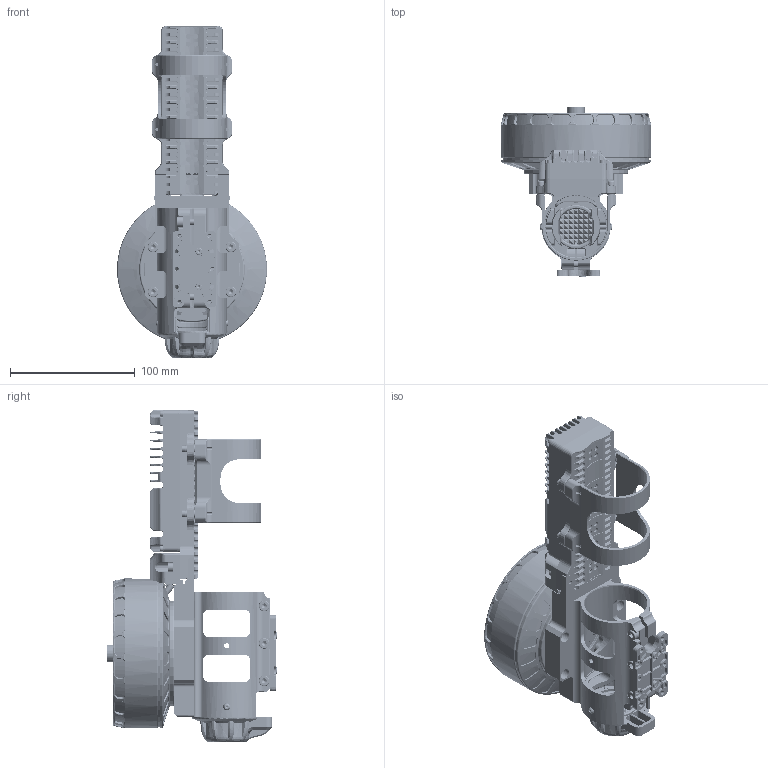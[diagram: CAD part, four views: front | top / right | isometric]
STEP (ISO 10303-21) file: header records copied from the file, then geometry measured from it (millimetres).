
FILE_DESCRIPTION (( 'STEP AP214' ), '1' );
FILE_NAME ('CM-X11 PLUS-11118-D50-CW&CCW.STEP', '2024-01-25T08:56:40', ( '' ), ( '' ), 'SwSTEP 2.0', 'SolidWorks 2021', '' );
FILE_SCHEMA (( 'AUTOMOTIVE_DESIGN' ));
Length unit declared in the file: millimetre
Products named in the file (1): CM-X11 PLUS-11118-D50-CW&CCW
Bounding box: 120.1 x 136.6 x 266 mm (x, y, z)
Surface area: 210307.6 mm2 (no closed solid volume)
Topology: 0 solids, 63 shells, 11874 faces, 32075 edges, 20459 vertices
Faces by surface type: plane 5858, cylinder 3759, bspline 1301, cone 853, torus 85, sphere 18
Entity records: 610139 total; most frequent: CARTESIAN_POINT 194619, ORIENTED_EDGE 63916, DIRECTION 53499, EDGE_CURVE 32006, VERTEX_POINT 20459, LINE 19493, VECTOR 19493, AXIS2_PLACEMENT_3D 17003
